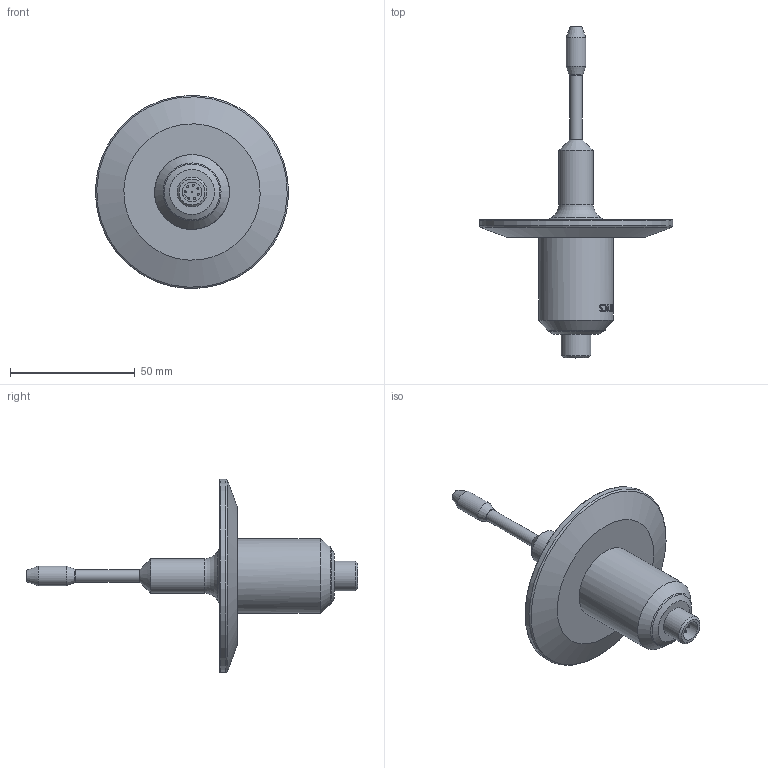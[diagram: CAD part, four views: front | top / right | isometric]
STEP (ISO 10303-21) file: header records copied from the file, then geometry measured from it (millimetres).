
FILE_DESCRIPTION(/* description */ ('Unknown'),/* implementation_level */ '2;1');
FILE_NAME(/* name */ 'SRV-HD-X3-25T',/* time_stamp */ '2023-12-12T16:51:37-05:00',/* author */ ('Unknown'),/* organization */ ('Unknown'),/* preprocessor_version */ 'ST-DEVELOPER v16.7',/* originating_system */ 'Solid Edge',/* authorisation */ 'Unknown');
FILE_SCHEMA (('CONFIG_CONTROL_DESIGN'));
Length unit declared in the file: millimetre
Products named in the file (1): SRV-HD-X3-25T
Bounding box: 77.45 x 133.13 x 77.45 mm (x, y, z)
Volume: 60234.2 mm3; surface area: 16677.2 mm2
Topology: 1 solids, 1 shells, 172 faces, 438 edges, 281 vertices
Faces by surface type: bspline 71, cylinder 37, plane 37, cone 13, sphere 8, torus 6
Full cylindrical faces by diameter (mm): 0.8 x8, 5.019 x1, 8 x2, 12 x1, 13.9 x1, 30 x1, 77.5 x1
Entity records: 9146 total; most frequent: CARTESIAN_POINT 4576, ORIENTED_EDGE 740, DIRECTION 476, EDGE_CURVE 370, VERTEX_POINT 263, EDGE_LOOP 235, FACE_BOUND 235, AXIS2_PLACEMENT_3D 175
